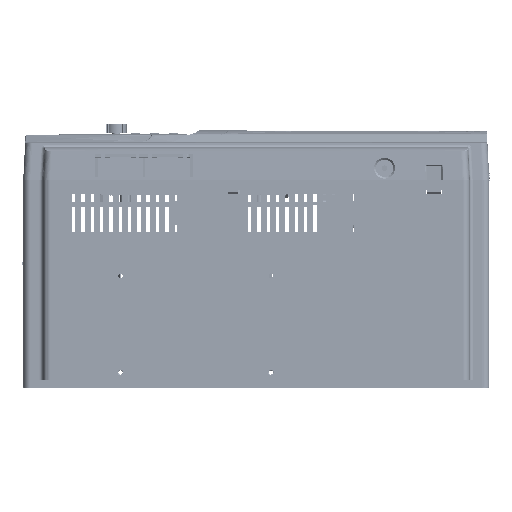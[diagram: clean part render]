
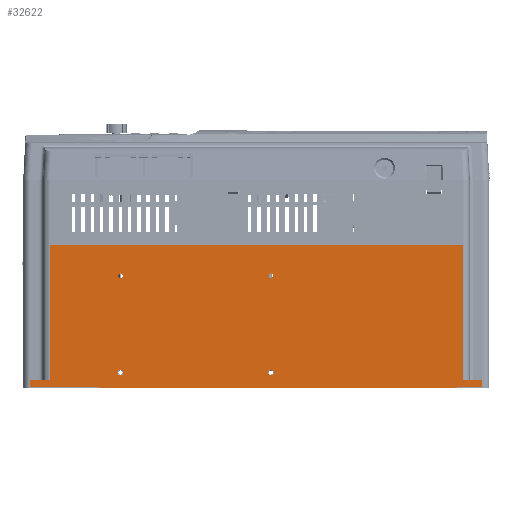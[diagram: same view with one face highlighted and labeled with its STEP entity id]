
A CAD part, left-side view. The second image highlights one B-rep face of the part: STEP entity #32622.
In plain terms, the highlighted planar face has unit normal (-1, 0, 0).
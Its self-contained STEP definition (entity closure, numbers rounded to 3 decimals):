
#440=DIRECTION('',(0.,0.,1.));
#441=VECTOR('',#440,59.05);
#442=CARTESIAN_POINT('',(-125.,-61.,-194.));
#443=LINE('',#442,#441);
#590=DIRECTION('',(0.,0.,1.));
#591=VECTOR('',#590,21.45);
#592=CARTESIAN_POINT('',(-125.,-61.,172.55));
#593=LINE('',#592,#591);
#1348=CARTESIAN_POINT('',(-125.,34.2,12.5));
#1349=DIRECTION('',(1.,0.,0.));
#1350=DIRECTION('',(0.,0.,1.));
#1351=AXIS2_PLACEMENT_3D('',#1348,#1349,#1350);
#1353=CARTESIAN_POINT('',(-125.,34.2,12.5));
#1354=DIRECTION('',(1.,0.,0.));
#1355=DIRECTION('',(0.,0.,-1.));
#1356=AXIS2_PLACEMENT_3D('',#1353,#1354,#1355);
#1358=CARTESIAN_POINT('',(-125.,34.2,-116.5));
#1359=DIRECTION('',(1.,0.,0.));
#1360=DIRECTION('',(0.,0.,1.));
#1361=AXIS2_PLACEMENT_3D('',#1358,#1359,#1360);
#1363=CARTESIAN_POINT('',(-125.,34.2,-116.5));
#1364=DIRECTION('',(1.,0.,0.));
#1365=DIRECTION('',(0.,0.,-1.));
#1366=AXIS2_PLACEMENT_3D('',#1363,#1364,#1365);
#1368=CARTESIAN_POINT('',(-125.,-48.8,-116.5));
#1369=DIRECTION('',(1.,0.,0.));
#1370=DIRECTION('',(0.,0.,-1.));
#1371=AXIS2_PLACEMENT_3D('',#1368,#1369,#1370);
#1373=CARTESIAN_POINT('',(-125.,-48.8,-116.5));
#1374=DIRECTION('',(1.,0.,0.));
#1375=DIRECTION('',(0.,0.,1.));
#1376=AXIS2_PLACEMENT_3D('',#1373,#1374,#1375);
#1378=CARTESIAN_POINT('',(-125.,-48.8,12.5));
#1379=DIRECTION('',(1.,0.,0.));
#1380=DIRECTION('',(0.,0.,-1.));
#1381=AXIS2_PLACEMENT_3D('',#1378,#1379,#1380);
#1383=CARTESIAN_POINT('',(-125.,-48.8,12.5));
#1384=DIRECTION('',(1.,0.,0.));
#1385=DIRECTION('',(0.,0.,1.));
#1386=AXIS2_PLACEMENT_3D('',#1383,#1384,#1385);
#1388=DIRECTION('',(0.,0.,-1.));
#1389=VECTOR('',#1388,307.);
#1390=CARTESIAN_POINT('',(-125.,-62.3,172.05));
#1391=LINE('',#1390,#1389);
#1392=DIRECTION('',(0.,-1.,0.));
#1393=VECTOR('',#1392,6.);
#1394=CARTESIAN_POINT('',(-125.,-55.,-194.));
#1395=LINE('',#1394,#1393);
#1396=DIRECTION('',(0.,-1.,0.));
#1397=VECTOR('',#1396,116.);
#1398=CARTESIAN_POINT('',(-125.,61.,-177.));
#1399=LINE('',#1398,#1397);
#1400=DIRECTION('',(0.,1.,0.));
#1401=VECTOR('',#1400,116.);
#1402=CARTESIAN_POINT('',(-125.,-55.,177.));
#1403=LINE('',#1402,#1401);
#1404=DIRECTION('',(0.,-1.,0.));
#1405=VECTOR('',#1404,6.);
#1406=CARTESIAN_POINT('',(-125.,-55.,194.));
#1407=LINE('',#1406,#1405);
#1408=DIRECTION('',(0.,-1.,0.));
#1409=VECTOR('',#1408,0.8);
#1410=CARTESIAN_POINT('',(-125.,-61.,172.55));
#1411=LINE('',#1410,#1409);
#1412=DIRECTION('',(0.,0.707,0.707));
#1413=VECTOR('',#1412,0.707);
#1414=CARTESIAN_POINT('',(-125.,-62.3,172.05));
#1415=LINE('',#1414,#1413);
#4926=DIRECTION('',(0.,0.,1.));
#4927=VECTOR('',#4926,354.);
#4928=CARTESIAN_POINT('',(-125.,61.,-177.));
#4929=LINE('',#4928,#4927);
#5180=DIRECTION('',(0.,0.,-1.));
#5181=VECTOR('',#5180,17.);
#5182=CARTESIAN_POINT('',(-125.,-55.,-177.));
#5183=LINE('',#5182,#5181);
#5271=DIRECTION('',(0.,0.,-1.));
#5272=VECTOR('',#5271,17.);
#5273=CARTESIAN_POINT('',(-125.,-55.,194.));
#5274=LINE('',#5273,#5272);
#24012=DIRECTION('',(0.,1.,0.));
#24013=VECTOR('',#24012,1.3);
#24014=CARTESIAN_POINT('',(-125.,-62.3,-134.95));
#24015=LINE('',#24014,#24013);
#25033=CARTESIAN_POINT('',(-125.,61.,177.));
#25035=VERTEX_POINT('',#25033);
#25039=CARTESIAN_POINT('',(-125.,-55.,177.));
#25040=VERTEX_POINT('',#25039);
#25093=CARTESIAN_POINT('',(-125.,61.,-177.));
#25094=VERTEX_POINT('',#25093);
#25095=CARTESIAN_POINT('',(-125.,-55.,-177.));
#25096=VERTEX_POINT('',#25095);
#25141=CARTESIAN_POINT('',(-125.,-55.,194.));
#25142=CARTESIAN_POINT('',(-125.,-61.,194.));
#25143=VERTEX_POINT('',#25141);
#25144=VERTEX_POINT('',#25142);
#25145=CARTESIAN_POINT('',(-125.,-61.,-194.));
#25147=VERTEX_POINT('',#25145);
#25151=CARTESIAN_POINT('',(-125.,-55.,-194.));
#25152=VERTEX_POINT('',#25151);
#27384=CARTESIAN_POINT('',(-125.,-48.8,-119.));
#27385=CARTESIAN_POINT('',(-125.,-48.8,-114.));
#27386=VERTEX_POINT('',#27384);
#27387=VERTEX_POINT('',#27385);
#27388=CARTESIAN_POINT('',(-125.,-48.8,10.));
#27389=CARTESIAN_POINT('',(-125.,-48.8,15.));
#27390=VERTEX_POINT('',#27388);
#27391=VERTEX_POINT('',#27389);
#27448=CARTESIAN_POINT('',(-125.,34.2,14.5));
#27449=CARTESIAN_POINT('',(-125.,34.2,10.5));
#27450=VERTEX_POINT('',#27448);
#27451=VERTEX_POINT('',#27449);
#27452=CARTESIAN_POINT('',(-125.,34.2,-114.5));
#27453=CARTESIAN_POINT('',(-125.,34.2,-118.5));
#27454=VERTEX_POINT('',#27452);
#27455=VERTEX_POINT('',#27453);
#30222=CARTESIAN_POINT('',(-125.,-61.,172.55));
#30223=VERTEX_POINT('',#30222);
#30240=CARTESIAN_POINT('',(-125.,-62.3,172.05));
#30241=CARTESIAN_POINT('',(-125.,-61.8,172.55));
#30242=VERTEX_POINT('',#30240);
#30243=VERTEX_POINT('',#30241);
#31004=CARTESIAN_POINT('',(-125.,-61.,-134.95));
#31005=VERTEX_POINT('',#31004);
#31008=CARTESIAN_POINT('',(-125.,-62.3,-134.95));
#31009=VERTEX_POINT('',#31008);
#32568=CARTESIAN_POINT('',(-125.,-61.,-200.));
#32569=DIRECTION('',(-1.,0.,0.));
#32570=DIRECTION('',(0.,0.,1.));
#32571=AXIS2_PLACEMENT_3D('',#32568,#32569,#32570);
#32572=PLANE('',#32571);
#32574=ORIENTED_EDGE('',*,*,#32573,.T.);
#32576=ORIENTED_EDGE('',*,*,#32575,.T.);
#32577=ORIENTED_EDGE('',*,*,#31614,.F.);
#32579=ORIENTED_EDGE('',*,*,#32578,.F.);
#32581=ORIENTED_EDGE('',*,*,#32580,.F.);
#32583=ORIENTED_EDGE('',*,*,#32582,.F.);
#32585=ORIENTED_EDGE('',*,*,#32584,.T.);
#32587=ORIENTED_EDGE('',*,*,#32586,.F.);
#32589=ORIENTED_EDGE('',*,*,#32588,.F.);
#32591=ORIENTED_EDGE('',*,*,#32590,.T.);
#32592=ORIENTED_EDGE('',*,*,#31840,.F.);
#32594=ORIENTED_EDGE('',*,*,#32593,.T.);
#32596=ORIENTED_EDGE('',*,*,#32595,.F.);
#32597=EDGE_LOOP('',(#32574,#32576,#32577,#32579,#32581,#32583,#32585,#32587,
#32589,#32591,#32592,#32594,#32596));
#32598=FACE_OUTER_BOUND('',#32597,.F.);
#32600=ORIENTED_EDGE('',*,*,#32599,.F.);
#32602=ORIENTED_EDGE('',*,*,#32601,.F.);
#32603=EDGE_LOOP('',(#32600,#32602));
#32604=FACE_BOUND('',#32603,.F.);
#32605=ORIENTED_EDGE('',*,*,#32542,.F.);
#32607=ORIENTED_EDGE('',*,*,#32606,.F.);
#32608=EDGE_LOOP('',(#32605,#32607));
#32609=FACE_BOUND('',#32608,.F.);
#32611=ORIENTED_EDGE('',*,*,#32610,.F.);
#32613=ORIENTED_EDGE('',*,*,#32612,.F.);
#32614=EDGE_LOOP('',(#32611,#32613));
#32615=FACE_BOUND('',#32614,.F.);
#32617=ORIENTED_EDGE('',*,*,#32616,.F.);
#32619=ORIENTED_EDGE('',*,*,#32618,.F.);
#32620=EDGE_LOOP('',(#32617,#32619));
#32621=FACE_BOUND('',#32620,.F.);
#32622=ADVANCED_FACE('',(#32598,#32604,#32609,#32615,#32621),#32572,.T.);
#1352=CIRCLE('',#1351,2.);
#1357=CIRCLE('',#1356,2.);
#1362=CIRCLE('',#1361,2.);
#1367=CIRCLE('',#1366,2.);
#1372=CIRCLE('',#1371,2.5);
#1377=CIRCLE('',#1376,2.5);
#1382=CIRCLE('',#1381,2.5);
#1387=CIRCLE('',#1386,2.5);
#31614=EDGE_CURVE('',#25147,#31005,#443,.T.);
#31840=EDGE_CURVE('',#30223,#25144,#593,.T.);
#32542=EDGE_CURVE('',#27386,#27387,#1372,.T.);
#32573=EDGE_CURVE('',#30242,#31009,#1391,.T.);
#32575=EDGE_CURVE('',#31009,#31005,#24015,.T.);
#32578=EDGE_CURVE('',#25152,#25147,#1395,.T.);
#32580=EDGE_CURVE('',#25096,#25152,#5183,.T.);
#32582=EDGE_CURVE('',#25094,#25096,#1399,.T.);
#32584=EDGE_CURVE('',#25094,#25035,#4929,.T.);
#32586=EDGE_CURVE('',#25040,#25035,#1403,.T.);
#32588=EDGE_CURVE('',#25143,#25040,#5274,.T.);
#32590=EDGE_CURVE('',#25143,#25144,#1407,.T.);
#32593=EDGE_CURVE('',#30223,#30243,#1411,.T.);
#32595=EDGE_CURVE('',#30242,#30243,#1415,.T.);
#32599=EDGE_CURVE('',#27454,#27455,#1362,.T.);
#32601=EDGE_CURVE('',#27455,#27454,#1367,.T.);
#32606=EDGE_CURVE('',#27387,#27386,#1377,.T.);
#32610=EDGE_CURVE('',#27390,#27391,#1382,.T.);
#32612=EDGE_CURVE('',#27391,#27390,#1387,.T.);
#32616=EDGE_CURVE('',#27450,#27451,#1352,.T.);
#32618=EDGE_CURVE('',#27451,#27450,#1357,.T.);
